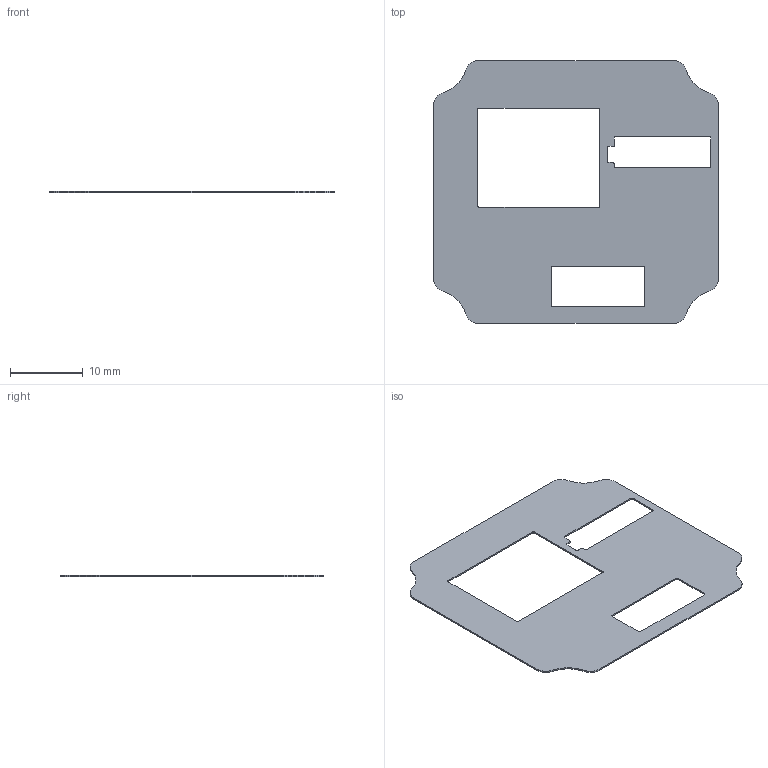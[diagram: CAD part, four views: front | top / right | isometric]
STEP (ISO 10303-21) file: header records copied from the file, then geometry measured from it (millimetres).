
FILE_DESCRIPTION(/* description */ ('VariCAD 2008 1.04 AP-203'),/* implementation_level */ '2;1');
FILE_NAME(/* name */ '0353-17-02',/* time_stamp */ '2008-06-01T23:53:12-06:00',/* author */ (''),/* organization */ (''),/* preprocessor_version */ 'ST-DEVELOPER v10',/* originating_system */ 'VariCAD 2008 1.04; kernel version (20071230)',/* authorisation */ '');
FILE_SCHEMA (('CONFIG_CONTROL_DESIGN'));
Length unit declared in the file: millimetre
Products named in the file (1): Part
Bounding box: 39 x 36 x 0.2 mm (x, y, z)
Volume: 195.7 mm3; surface area: 2011.3 mm2
Topology: 1 solids, 1 shells, 49 faces, 141 edges, 94 vertices
Faces by surface type: cylinder 27, plane 22
Entity records: 1687 total; most frequent: DIRECTION 297, CARTESIAN_POINT 286, ORIENTED_EDGE 282, EDGE_CURVE 141, AXIS2_PLACEMENT_3D 105, VERTEX_POINT 94, LINE 87, VECTOR 87
